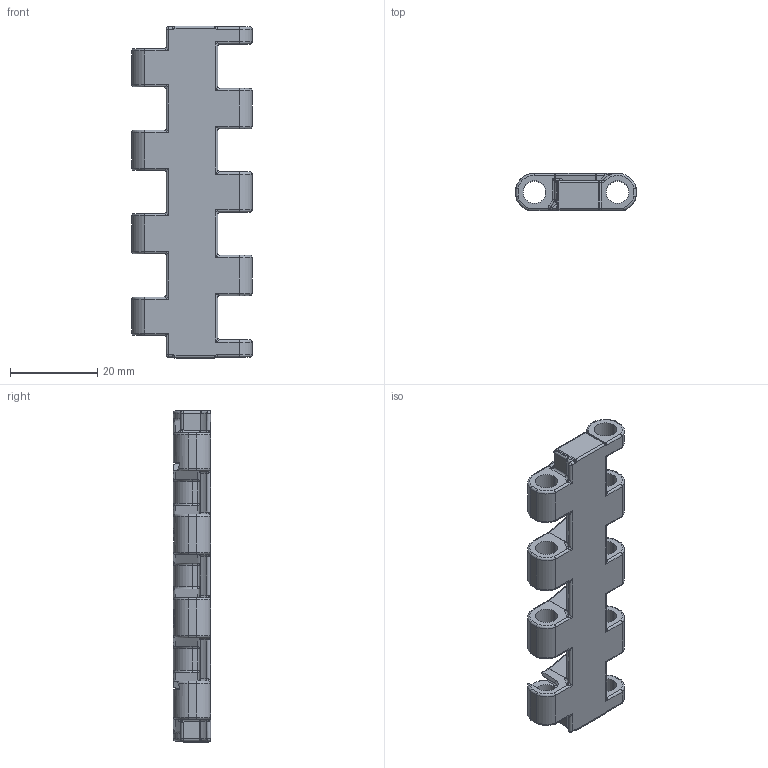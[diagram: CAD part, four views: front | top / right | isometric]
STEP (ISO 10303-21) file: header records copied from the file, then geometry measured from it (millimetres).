
FILE_DESCRIPTION((''),'2;1');
FILE_NAME('P131','2012-11-08T',('jas'),(''),'PRO/ENGINEER BY PARAMETRIC TECHNOLOGY CORPORATION, 2012230','PRO/ENGINEER BY PARAMETRIC TECHNOLOGY CORPORATION, 2012230','');
FILE_SCHEMA(('CONFIG_CONTROL_DESIGN'));
Length unit declared in the file: millimetre
Products named in the file (1): P131
Bounding box: 27.53 x 8.5 x 76 mm (x, y, z)
Volume: 5899.9 mm3; surface area: 6679.8 mm2
Topology: 1 solids, 1 shells, 773 faces, 1818 edges, 1056 vertices
Faces by surface type: cylinder 303, plane 188, torus 138, bspline 91, sphere 51, cone 2
Entity records: 28793 total; most frequent: CARTESIAN_POINT 11667, ORIENTED_EDGE 3636, DIRECTION 3566, EDGE_CURVE 1818, AXIS2_PLACEMENT_3D 1435, VERTEX_POINT 1056, EDGE_LOOP 800, FACE_OUTER_BOUND 773
